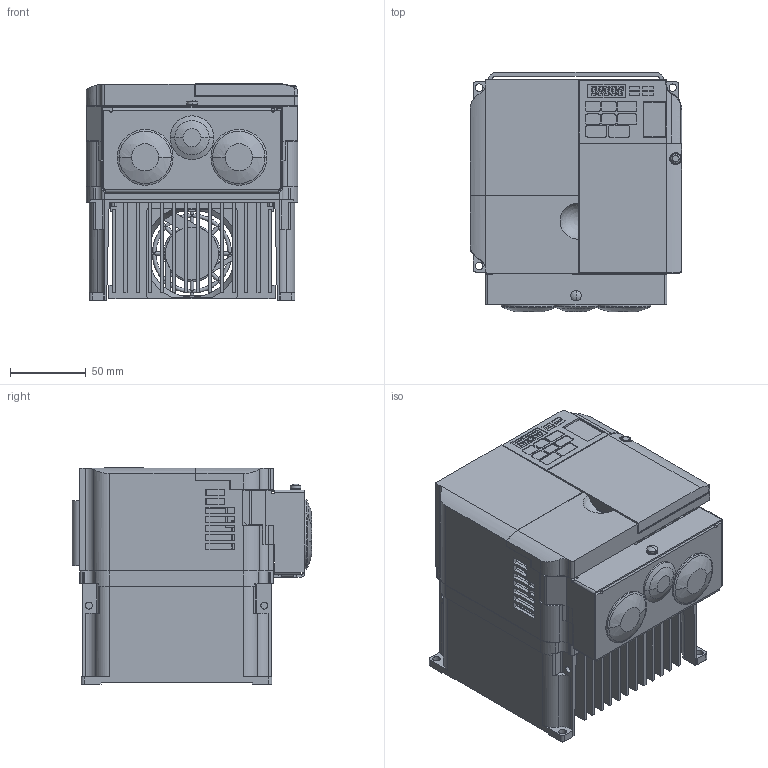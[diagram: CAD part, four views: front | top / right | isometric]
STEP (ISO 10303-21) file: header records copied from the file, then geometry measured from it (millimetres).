
FILE_DESCRIPTION((''),'2;1');
FILE_NAME('VU2A0020FAA_ASM','2009-08-21T',('jeffm'),(''),'PRO/ENGINEER BY PARAMETRIC TECHNOLOGY CORPORATION, 2007390','PRO/ENGINEER BY PARAMETRIC TECHNOLOGY CORPORATION, 2007390','');
FILE_SCHEMA(('CONFIG_CONTROL_DESIGN'));
Products named in the file (11): VU2A0020FAA_BASE; VU2A0020FAA_COVER1; VU2A0020FAA_COVER2; VU2A0020FAA_COVER3; VU2A0020FAA_COVER4; VU2A0020FAA_COVER5; VU2A0020FAA_COVER6; VU2A0020FAA_COVER7; VU2A0020FAA_GROMMET1; VU2A0020FAA_GROMMET2; VU2A0020FAA_ASM
Assembly tree (11 placements, depth 2):
  VU2A0020FAA_ASM
    VU2A0020FAA_BASE
    VU2A0020FAA_COVER1
    VU2A0020FAA_COVER2
    VU2A0020FAA_COVER3
    VU2A0020FAA_COVER4
    VU2A0020FAA_COVER5
    VU2A0020FAA_COVER6
    VU2A0020FAA_COVER7
    VU2A0020FAA_GROMMET1
    VU2A0020FAA_GROMMET2  x2
Bounding box: 140 x 158.4 x 143.35 mm (x, y, z)
Volume: 729200.6 mm3; surface area: 553210.1 mm2
Topology: 11 solids, 12 shells, 4755 faces, 12926 edges, 8404 vertices
Faces by surface type: plane 3665, cylinder 836, extrusion 105, torus 72, sphere 40, cone 31, bspline 6
Entity records: 150494 total; most frequent: CARTESIAN_POINT 29931, ORIENTED_EDGE 25722, DIRECTION 23600, EDGE_CURVE 12861, VECTOR 10390, LINE 10285, VERTEX_POINT 8386, AXIS2_PLACEMENT_3D 6605
